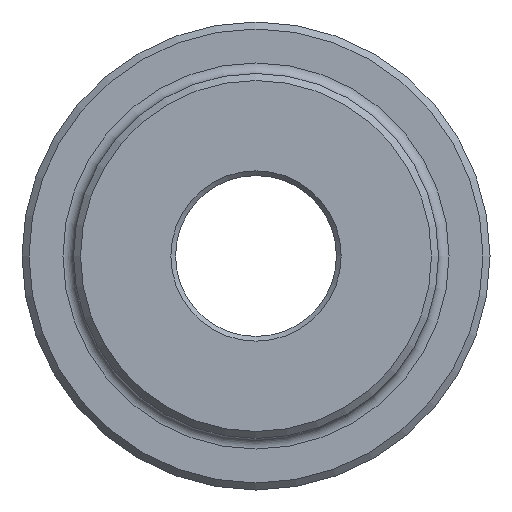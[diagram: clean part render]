
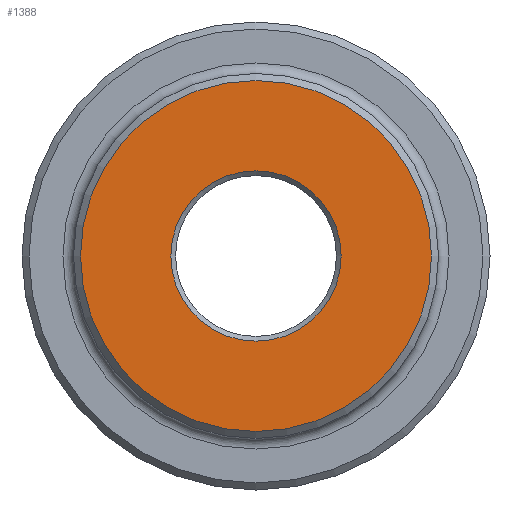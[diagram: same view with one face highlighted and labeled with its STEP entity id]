
A CAD part, left-side view. The second image highlights one B-rep face of the part: STEP entity #1388.
In plain terms, the highlighted planar face has unit normal (-1, 0, 0).
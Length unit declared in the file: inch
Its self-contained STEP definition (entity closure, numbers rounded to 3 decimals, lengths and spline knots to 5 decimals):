
#41 = ORIENTED_EDGE ( 'NONE', *, *, #1795, .T. ) ;
#105 = CARTESIAN_POINT ( 'NONE',  ( 0., 0., 0. ) ) ;
#217 = CARTESIAN_POINT ( 'NONE',  ( 0., 0., -1.5 ) ) ;
#292 = DIRECTION ( 'NONE',  ( 0., 0., -1. ) ) ;
#348 = EDGE_CURVE ( 'NONE', #1529, #1529, #833, .T. ) ;
#398 = EDGE_LOOP ( 'NONE', ( #1526 ) ) ;
#478 = DIRECTION ( 'NONE',  ( -1., 0., 0. ) ) ;
#565 = AXIS2_PLACEMENT_3D ( 'NONE', #707, #1572, #1746 ) ;
#659 = VERTEX_POINT ( 'NONE', #217 ) ;
#707 = CARTESIAN_POINT ( 'NONE',  ( 0., 0., 0. ) ) ;
#716 = DIRECTION ( 'NONE',  ( 0., 0., -1. ) ) ;
#833 = CIRCLE ( 'NONE', #565, 0.72775 ) ;
#916 = PLANE ( 'NONE',  #1001 ) ;
#1001 = AXIS2_PLACEMENT_3D ( 'NONE', #105, #1772, #292 ) ;
#1044 = CARTESIAN_POINT ( 'NONE',  ( 0., 0., -0.72775 ) ) ;
#1129 = FACE_BOUND ( 'NONE', #398, .T. ) ;
#1298 = CARTESIAN_POINT ( 'NONE',  ( 0., 0., 0. ) ) ;
#1388 = ADVANCED_FACE ( 'NONE', ( #1129, #1599 ), #916, .F. ) ;
#1461 = EDGE_LOOP ( 'NONE', ( #41 ) ) ;
#1526 = ORIENTED_EDGE ( 'NONE', *, *, #348, .T. ) ;
#1529 = VERTEX_POINT ( 'NONE', #1044 ) ;
#1572 = DIRECTION ( 'NONE',  ( 1., 0., 0. ) ) ;
#1599 = FACE_OUTER_BOUND ( 'NONE', #1461, .T. ) ;
#1658 = AXIS2_PLACEMENT_3D ( 'NONE', #1298, #478, #716 ) ;
#1691 = CIRCLE ( 'NONE', #1658, 1.5 ) ;
#1746 = DIRECTION ( 'NONE',  ( 0., 0., -1. ) ) ;
#1772 = DIRECTION ( 'NONE',  ( 1., 0., 0. ) ) ;
#1795 = EDGE_CURVE ( 'NONE', #659, #659, #1691, .T. ) ;
